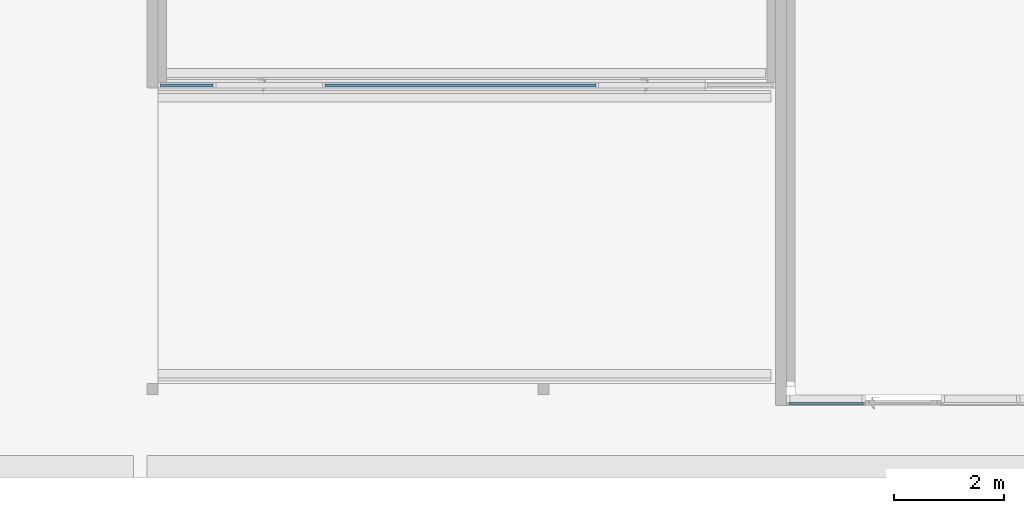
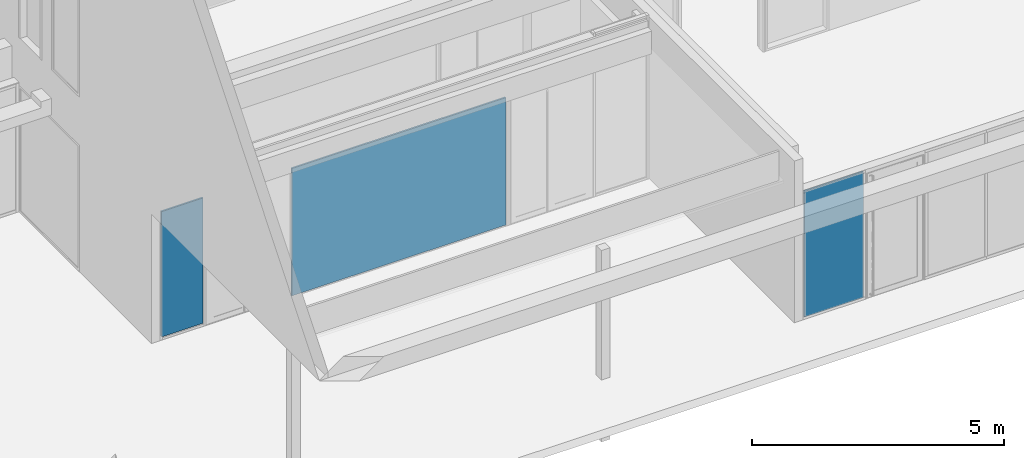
# One storey, part 68 of 240: 3 plates, 3 elements without a shape of their own.
"""IFC2X3 building model written with IfcOpenShell, lengths in centimetres."""

from ifc_helpers import new_model, entity, si_unit, converted_unit, derived_unit, direction, frame, origin, origin_2d_with_axis, place, context, subcontext, project, spatial, rectangle, extrude, source, transform, mapped, material, layer, layer_set, layer_usage, type_object, type_shapes, element, aggregate, save


model = new_model("IFC2X3")

# Units and contexts
model_context = context("Model", 3, precision=0.001, world=origin(), true_north=direction((6.12303176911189e-17, 1.0)))
body_context = subcontext(model_context, "Body", "Model", "MODEL_VIEW")
ifc_project = project(units=[si_unit("LENGTHUNIT", "METRE", prefix="CENTI"), si_unit("AREAUNIT", "SQUARE_METRE"), si_unit("VOLUMEUNIT", "CUBIC_METRE"), converted_unit("PLANEANGLEUNIT", "DEGREE", entity("IfcRatioMeasure", 0.0174532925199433), si_unit("PLANEANGLEUNIT", "RADIAN"), dimensions=[0, 0, 0, 0, 0, 0, 0]), si_unit("MASSUNIT", "GRAM", prefix="KILO"), derived_unit("MASSDENSITYUNIT", [(si_unit("MASSUNIT", "GRAM", prefix="KILO"), 1), (si_unit("LENGTHUNIT", "METRE"), -3)]), si_unit("TIMEUNIT", "SECOND"), si_unit("FREQUENCYUNIT", "HERTZ"), si_unit("THERMODYNAMICTEMPERATUREUNIT", "DEGREE_CELSIUS"), derived_unit("THERMALTRANSMITTANCEUNIT", [(si_unit("MASSUNIT", "GRAM", prefix="KILO"), 1), (si_unit("THERMODYNAMICTEMPERATUREUNIT", "KELVIN"), -1), (si_unit("TIMEUNIT", "SECOND"), -3)]), derived_unit("VOLUMETRICFLOWRATEUNIT", [(si_unit("LENGTHUNIT", "METRE"), 3), (si_unit("TIMEUNIT", "SECOND"), -1)]), si_unit("ELECTRICCURRENTUNIT", "AMPERE"), si_unit("ELECTRICVOLTAGEUNIT", "VOLT"), si_unit("POWERUNIT", "WATT"), si_unit("FORCEUNIT", "NEWTON", prefix="KILO"), si_unit("ILLUMINANCEUNIT", "LUX"), si_unit("LUMINOUSFLUXUNIT", "LUMEN"), si_unit("LUMINOUSINTENSITYUNIT", "CANDELA"), derived_unit("USERDEFINED", [(si_unit("MASSUNIT", "GRAM", prefix="KILO"), -1), (si_unit("LENGTHUNIT", "METRE"), -2), (si_unit("TIMEUNIT", "SECOND"), 3), (si_unit("LUMINOUSFLUXUNIT", "LUMEN"), 1)]), derived_unit("LINEARVELOCITYUNIT", [(si_unit("LENGTHUNIT", "METRE"), 1), (si_unit("TIMEUNIT", "SECOND"), -1)]), si_unit("PRESSUREUNIT", "PASCAL"), derived_unit("USERDEFINED", [(si_unit("LENGTHUNIT", "METRE"), -2), (si_unit("MASSUNIT", "GRAM", prefix="KILO"), 1), (si_unit("TIMEUNIT", "SECOND"), -2)])], contexts=[model_context])

# Site, building, storey
site_placement = place(None, frame((-2781.94577612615, 7442.24238424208, 0.0)))
site = spatial("IfcSite", under=ifc_project, at=site_placement, Name="Default", CompositionType="ELEMENT")
building_placement = place(site_placement, origin())
building = spatial("IfcBuilding", under=site, at=building_placement, CompositionType="ELEMENT")
storey_placement = place(building_placement, origin())
storey = spatial("IfcBuildingStorey", under=building, at=storey_placement, Name="N00 - COO", CompositionType="ELEMENT", Elevation=0.0)

# Curtain wall, plate
curtain_wall_type_1 = type_object("IfcCurtainWallType", Name="Mur-rideau:07 - mur rideau trame 140 cm", PredefinedType="NOTDEFINED")
curtain_wall_1_placement = place(building_placement, origin())
curtain_wall_1 = element("IfcCurtainWall", 1, at=curtain_wall_1_placement, inside=storey, type_object=curtain_wall_type_1, Name="Mur-rideau:07 - mur rideau trame 140 cm", ObjectType="Mur-rideau:07 - mur rideau trame 140 cm")
ifc_material = material(Name="Verre")
ifc_layer = layer(ifc_material, 4.0)
ifc_layer_set = layer_set([ifc_layer], Name="Panneau système:Vitré")
ifc_layer_usage_1 = layer_usage(ifc_layer_set, "AXIS3", "POSITIVE", 0.0)
plate_type_1 = type_object("IfcPlateType", Name="Vitré", PredefinedType="CURTAIN_PANEL", material=ifc_layer_set)
shared_shape_1 = source(origin(), body_context, "Body", "SweptSolid", [
    extrude(rectangle(XDim=4.0, YDim=135.01250003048, at=origin_2d_with_axis()), frame((0.0, 0.0, 0.0), z_axis=(0.0, 0.0, 1.0), x_axis=(0.0, 1.0, 0.0)), (0.0, 0.0, 1.0), 304.2625),
])
type_shapes(plate_type_1, [shared_shape_1])
plate_1_placement = place(curtain_wall_1_placement, frame((-3557.87487966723, -3046.51349958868, 4.11874999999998)))
plate_1 = element("IfcPlate", 2, at=plate_1_placement, type_object=plate_type_1, material=ifc_layer_usage_1, Name="Panneau système:Vitré", ObjectType="Panneau système:Vitré", context=body_context, shape_type="MappedRepresentation", body=[
    mapped(shared_shape_1, transform((0.0, 0.0, 0.0), scale=1.0)),
])
aggregate(curtain_wall_1, [plate_1])

curtain_wall_type_2 = type_object("IfcCurtainWallType", PredefinedType="NOTDEFINED")
curtain_wall_2_placement = place(building_placement, origin())
curtain_wall_2 = element("IfcCurtainWall", 3, at=curtain_wall_2_placement, inside=storey, type_object=curtain_wall_type_2)
ifc_layer_usage_2 = layer_usage(ifc_layer_set, "AXIS3", "POSITIVE", 0.0)
plate_type_2 = type_object("IfcPlateType", Name="Vitré", PredefinedType="CURTAIN_PANEL", material=ifc_layer_set)
shared_shape_2 = source(origin(), body_context, "Body", "SweptSolid", [
    extrude(rectangle(XDim=4.0, YDim=490.0, at=origin_2d_with_axis()), frame((0.0, 0.0, 0.0), z_axis=(0.0, 0.0, 1.0), x_axis=(0.0, 1.0, 0.0)), (0.0, 0.0, 1.0), 308.00000000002),
])
type_shapes(plate_type_2, [shared_shape_2])
plate_2_placement = place(curtain_wall_2_placement, frame((-4219.99987968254, -2470.15656731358, 0.0)))
plate_2 = element("IfcPlate", 4, at=plate_2_placement, type_object=plate_type_2, material=ifc_layer_usage_2, Name="Panneau système:Vitré", ObjectType="Panneau système:Vitré", context=body_context, shape_type="MappedRepresentation", body=[
    mapped(shared_shape_2, transform((0.0, 0.0, 0.0), scale=1.0)),
])
aggregate(curtain_wall_2, [plate_2])

curtain_wall_type_3 = type_object("IfcCurtainWallType", Name="Mur-rideau:07 - mur rideau vitrage sans recoupement 10cm", PredefinedType="NOTDEFINED")
curtain_wall_3_placement = place(building_placement, origin())
curtain_wall_3 = element("IfcCurtainWall", 5, at=curtain_wall_3_placement, inside=storey, type_object=curtain_wall_type_3, Name="Mur-rideau:07 - mur rideau vitrage sans recoupement 10cm", ObjectType="Mur-rideau:07 - mur rideau vitrage sans recoupement 10cm")
ifc_layer_usage_3 = layer_usage(ifc_layer_set, "AXIS3", "POSITIVE", 0.0)
plate_type_3 = type_object("IfcPlateType", Name="Vitré", PredefinedType="CURTAIN_PANEL", material=ifc_layer_set)
shared_shape_3 = source(origin(), body_context, "Body", "SweptSolid", [
    extrude(rectangle(XDim=4.0, YDim=95.2629526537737, at=origin_2d_with_axis()), frame((0.0, 0.0, 0.0), z_axis=(0.0, 0.0, 1.0), x_axis=(0.0, 1.0, 0.0)), (0.0, 0.0, 1.0), 302.999999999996),
])
type_shapes(plate_type_3, [shared_shape_3])
plate_3_placement = place(curtain_wall_3_placement, frame((-4715.36840127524, -2470.15656731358, 5.0)))
plate_3 = element("IfcPlate", 6, at=plate_3_placement, type_object=plate_type_3, material=ifc_layer_usage_3, Name="Panneau système:Vitré", ObjectType="Panneau système:Vitré", context=body_context, shape_type="MappedRepresentation", body=[
    mapped(shared_shape_3, transform((0.0, 0.0, 0.0), scale=1.0)),
])
aggregate(curtain_wall_3, [plate_3])

save(model, "model.ifc")
